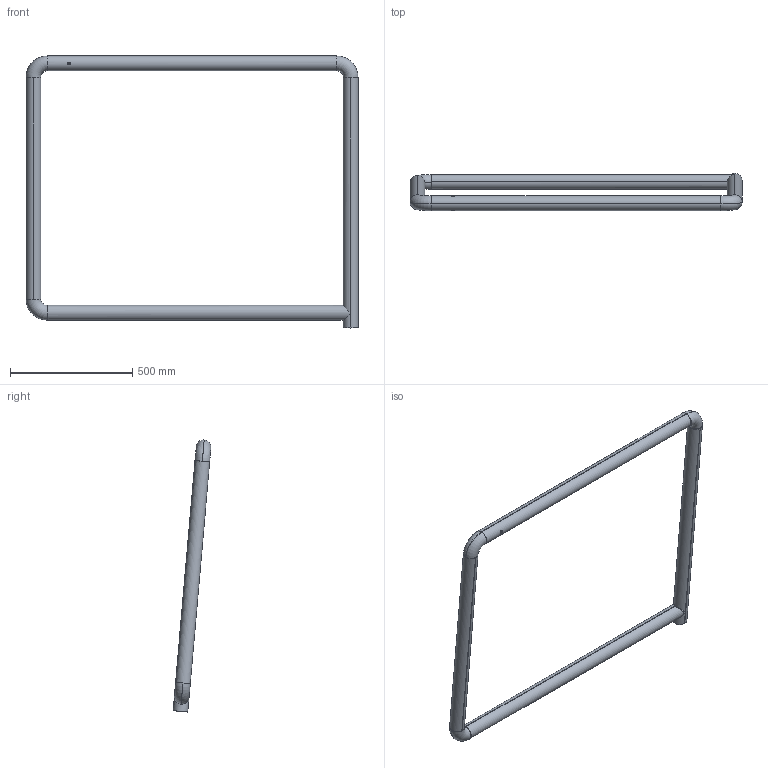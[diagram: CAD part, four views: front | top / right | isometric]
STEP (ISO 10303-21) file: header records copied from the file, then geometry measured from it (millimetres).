
FILE_DESCRIPTION (( 'STEP AP214' ), '1' );
FILE_NAME ('CCJ029-REP.333 - MAIN COURANTE PORTILLON A1-A2.STEP', '2025-11-04T12:23:46', ( '' ), ( '' ), 'SwSTEP 2.0', 'SolidWorks 2021', '' );
FILE_SCHEMA (( 'AUTOMOTIVE_DESIGN' ));
Length unit declared in the file: millimetre
Products named in the file (1): CCJ029-REP.333 - MAIN COURANTE PORTILLON A1-A2
Bounding box: 1360.3 x 154.82 x 1114.5 mm (x, y, z)
Volume: 1690756.6 mm3; surface area: 1690782.5 mm2
Topology: 1 solids, 1 shells, 39 faces, 116 edges, 74 vertices
Faces by surface type: cylinder 26, torus 12, plane 1
Entity records: 2136 total; most frequent: CARTESIAN_POINT 1026, DIRECTION 238, ORIENTED_EDGE 232, EDGE_CURVE 116, AXIS2_PLACEMENT_3D 104, VERTEX_POINT 74, CIRCLE 64, EDGE_LOOP 44
